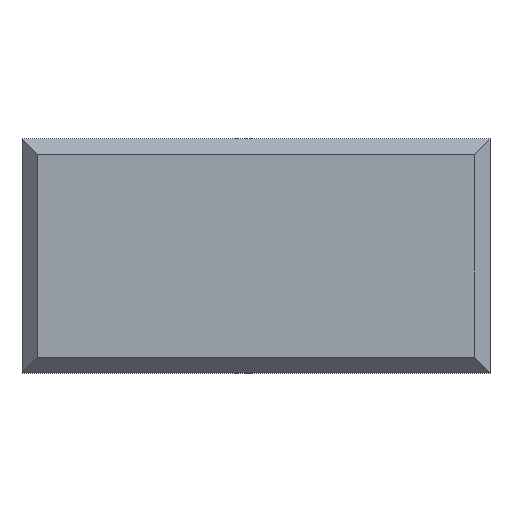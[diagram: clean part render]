
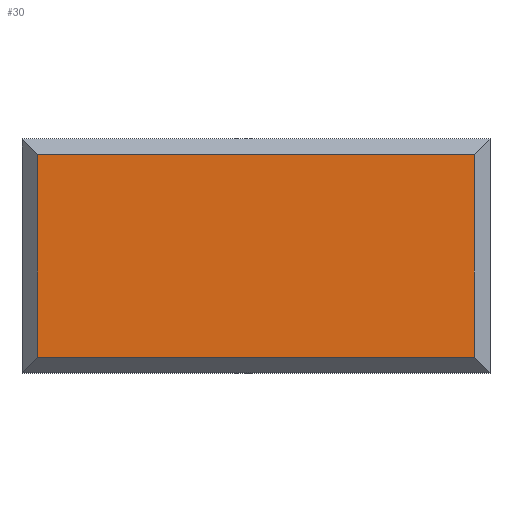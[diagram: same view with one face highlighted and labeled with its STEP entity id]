
A CAD part, top view. The second image highlights one B-rep face of the part: STEP entity #30.
In plain terms, the highlighted planar face has unit normal (0, 0, 1).
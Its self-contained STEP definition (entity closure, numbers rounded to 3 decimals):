
#1 = DIRECTION ( 'NONE',  ( 1., 0., 0. ) ) ;
#25 = ORIENTED_EDGE ( 'NONE', *, *, #583, .T. ) ;
#30 = ADVANCED_FACE ( 'NONE', ( #431 ), #756, .T. ) ;
#91 = CARTESIAN_POINT ( 'NONE',  ( 15., -6.5, 1.75 ) ) ;
#127 = AXIS2_PLACEMENT_3D ( 'NONE', #550, #462, #375 ) ;
#154 = EDGE_CURVE ( 'NONE', #425, #718, #182, .T. ) ;
#159 = CARTESIAN_POINT ( 'NONE',  ( -14., 6.5, 1.75 ) ) ;
#175 = DIRECTION ( 'NONE',  ( 0., 1., 0. ) ) ;
#182 = LINE ( 'NONE', #91, #648 ) ;
#236 = DIRECTION ( 'NONE',  ( -1., 0., 0. ) ) ;
#256 = CARTESIAN_POINT ( 'NONE',  ( 14., 7.5, 1.75 ) ) ;
#274 = DIRECTION ( 'NONE',  ( 0., -1., 0. ) ) ;
#285 = ORIENTED_EDGE ( 'NONE', *, *, #329, .T. ) ;
#307 = CARTESIAN_POINT ( 'NONE',  ( -15., 6.5, 1.75 ) ) ;
#329 = EDGE_CURVE ( 'NONE', #390, #425, #434, .T. ) ;
#333 = LINE ( 'NONE', #256, #526 ) ;
#344 = EDGE_CURVE ( 'NONE', #718, #744, #333, .T. ) ;
#348 = CARTESIAN_POINT ( 'NONE',  ( -14., -7.5, 1.75 ) ) ;
#375 = DIRECTION ( 'NONE',  ( 1., 0., 0. ) ) ;
#385 = ORIENTED_EDGE ( 'NONE', *, *, #154, .T. ) ;
#390 = VERTEX_POINT ( 'NONE', #159 ) ;
#391 = LINE ( 'NONE', #307, #765 ) ;
#397 = CARTESIAN_POINT ( 'NONE',  ( 14., -6.5, 1.75 ) ) ;
#425 = VERTEX_POINT ( 'NONE', #632 ) ;
#431 = FACE_OUTER_BOUND ( 'NONE', #807, .T. ) ;
#434 = LINE ( 'NONE', #348, #791 ) ;
#462 = DIRECTION ( 'NONE',  ( 0., 0., 1. ) ) ;
#526 = VECTOR ( 'NONE', #175, 1000. ) ;
#550 = CARTESIAN_POINT ( 'NONE',  ( 0., 0., 1.75 ) ) ;
#583 = EDGE_CURVE ( 'NONE', #744, #390, #391, .T. ) ;
#632 = CARTESIAN_POINT ( 'NONE',  ( -14., -6.5, 1.75 ) ) ;
#641 = ORIENTED_EDGE ( 'NONE', *, *, #344, .T. ) ;
#648 = VECTOR ( 'NONE', #1, 1000. ) ;
#718 = VERTEX_POINT ( 'NONE', #397 ) ;
#744 = VERTEX_POINT ( 'NONE', #761 ) ;
#756 = PLANE ( 'NONE',  #127 ) ;
#761 = CARTESIAN_POINT ( 'NONE',  ( 14., 6.5, 1.75 ) ) ;
#765 = VECTOR ( 'NONE', #236, 1000. ) ;
#791 = VECTOR ( 'NONE', #274, 1000. ) ;
#807 = EDGE_LOOP ( 'NONE', ( #385, #641, #25, #285 ) ) ;
